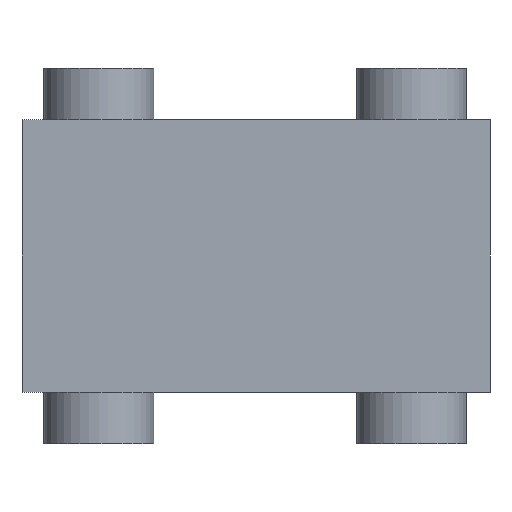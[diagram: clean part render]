
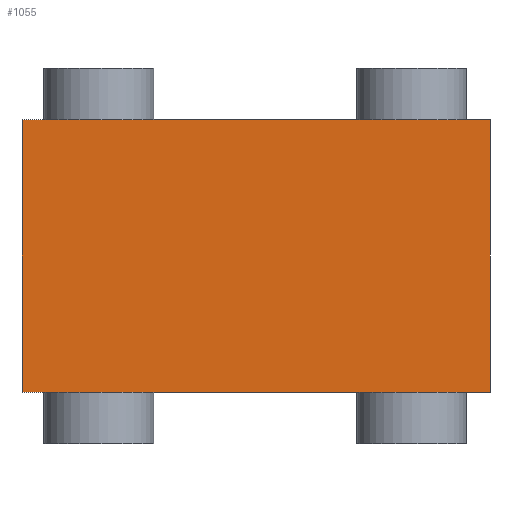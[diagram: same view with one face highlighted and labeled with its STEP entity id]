
A CAD part, front view. The second image highlights one B-rep face of the part: STEP entity #1055.
In plain terms, the highlighted planar face has unit normal (0, -1, 0).
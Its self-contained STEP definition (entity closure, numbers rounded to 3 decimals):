
#390 = EDGE_CURVE ( 'NONE', #7650, #3191, #3417, .T. ) ;
#630 = CARTESIAN_POINT ( 'NONE',  ( 255.8, 0., 149. ) ) ;
#784 = DIRECTION ( 'NONE',  ( 1., 0., 0. ) ) ;
#1055 = ADVANCED_FACE ( 'NONE', ( #7382 ), #4024, .F. ) ;
#1079 = DIRECTION ( 'NONE',  ( 0., 0., -1. ) ) ;
#1384 = VERTEX_POINT ( 'NONE', #9652 ) ;
#1499 = CARTESIAN_POINT ( 'NONE',  ( 0., 0., 149. ) ) ;
#1653 = DIRECTION ( 'NONE',  ( 1., 0., 0. ) ) ;
#2370 = DIRECTION ( 'NONE',  ( 0., 1., 0. ) ) ;
#2650 = LINE ( 'NONE', #10221, #10014 ) ;
#3191 = VERTEX_POINT ( 'NONE', #10419 ) ;
#3198 = DIRECTION ( 'NONE',  ( 0., 0., 1. ) ) ;
#3417 = LINE ( 'NONE', #6776, #7542 ) ;
#4024 = PLANE ( 'NONE',  #9640 ) ;
#4054 = EDGE_LOOP ( 'NONE', ( #10730, #4729, #7908, #4941 ) ) ;
#4182 = VECTOR ( 'NONE', #1079, 1000. ) ;
#4729 = ORIENTED_EDGE ( 'NONE', *, *, #390, .F. ) ;
#4941 = ORIENTED_EDGE ( 'NONE', *, *, #9162, .T. ) ;
#5358 = VERTEX_POINT ( 'NONE', #10301 ) ;
#6068 = LINE ( 'NONE', #10293, #4182 ) ;
#6650 = DIRECTION ( 'NONE',  ( 0., 0., -1. ) ) ;
#6776 = CARTESIAN_POINT ( 'NONE',  ( 255.8, 0., 149. ) ) ;
#7317 = LINE ( 'NONE', #9044, #8419 ) ;
#7382 = FACE_OUTER_BOUND ( 'NONE', #4054, .T. ) ;
#7542 = VECTOR ( 'NONE', #6650, 1000. ) ;
#7650 = VERTEX_POINT ( 'NONE', #630 ) ;
#7908 = ORIENTED_EDGE ( 'NONE', *, *, #10750, .F. ) ;
#8065 = EDGE_CURVE ( 'NONE', #1384, #3191, #7317, .T. ) ;
#8419 = VECTOR ( 'NONE', #1653, 1000. ) ;
#9044 = CARTESIAN_POINT ( 'NONE',  ( 0., 0., 0. ) ) ;
#9162 = EDGE_CURVE ( 'NONE', #5358, #1384, #6068, .T. ) ;
#9640 = AXIS2_PLACEMENT_3D ( 'NONE', #1499, #2370, #3198 ) ;
#9652 = CARTESIAN_POINT ( 'NONE',  ( 0., 0., 0. ) ) ;
#10014 = VECTOR ( 'NONE', #784, 1000. ) ;
#10221 = CARTESIAN_POINT ( 'NONE',  ( 0., 0., 149. ) ) ;
#10293 = CARTESIAN_POINT ( 'NONE',  ( 0., 0., 149. ) ) ;
#10301 = CARTESIAN_POINT ( 'NONE',  ( 0., 0., 149. ) ) ;
#10419 = CARTESIAN_POINT ( 'NONE',  ( 255.8, 0., 0. ) ) ;
#10730 = ORIENTED_EDGE ( 'NONE', *, *, #8065, .T. ) ;
#10750 = EDGE_CURVE ( 'NONE', #5358, #7650, #2650, .T. ) ;
